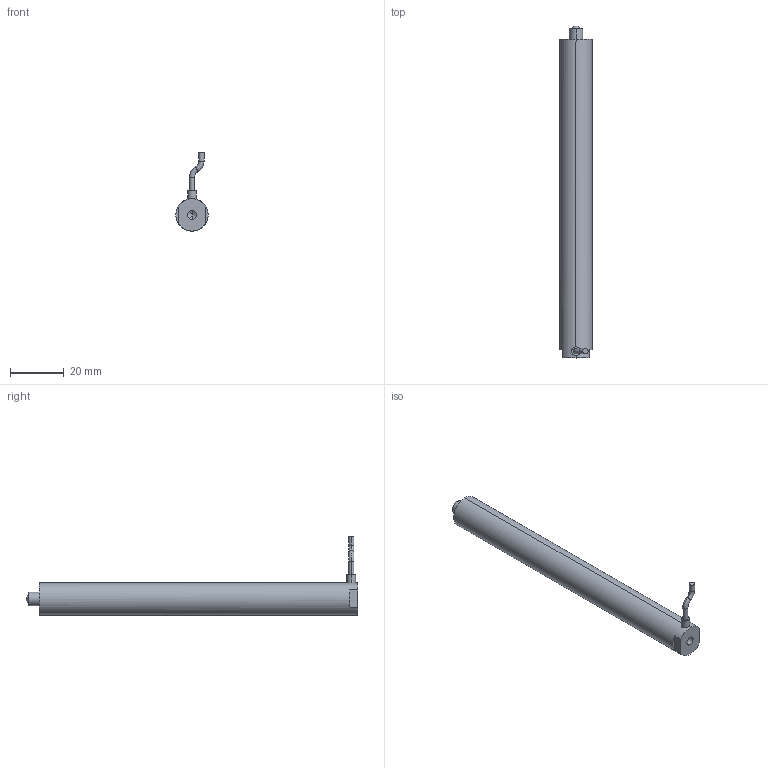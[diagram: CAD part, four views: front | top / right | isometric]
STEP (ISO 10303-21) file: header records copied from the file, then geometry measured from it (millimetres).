
FILE_DESCRIPTION (( 'STEP AP203' ), '1' );
FILE_NAME ('球头式120VS12.STEP', '2020-08-19T06:05:32', ( 'User' ), ( 'china' ), 'SwSTEP 2.0', 'SolidWorks 2016', '' );
FILE_SCHEMA (( 'CONFIG_CONTROL_DESIGN' ));
Length unit declared in the file: millimetre
Products named in the file (1): ⑩芛宒120VS12
Bounding box: 12 x 123.6 x 29.08 mm (x, y, z)
Volume: 13486.5 mm3; surface area: 4957.2 mm2
Topology: 1 solids, 1 shells, 932 faces, 2505 edges, 1666 vertices
Faces by surface type: bspline 509, plane 314, cylinder 101, torus 4, sphere 2, cone 2
Entity records: 43470 total; most frequent: CARTESIAN_POINT 24587, ORIENTED_EDGE 5006, EDGE_CURVE 2503, DIRECTION 1956, B_SPLINE_CURVE_WITH_KNOTS 1673, VERTEX_POINT 1666, EDGE_LOOP 1025, ADVANCED_FACE 932
